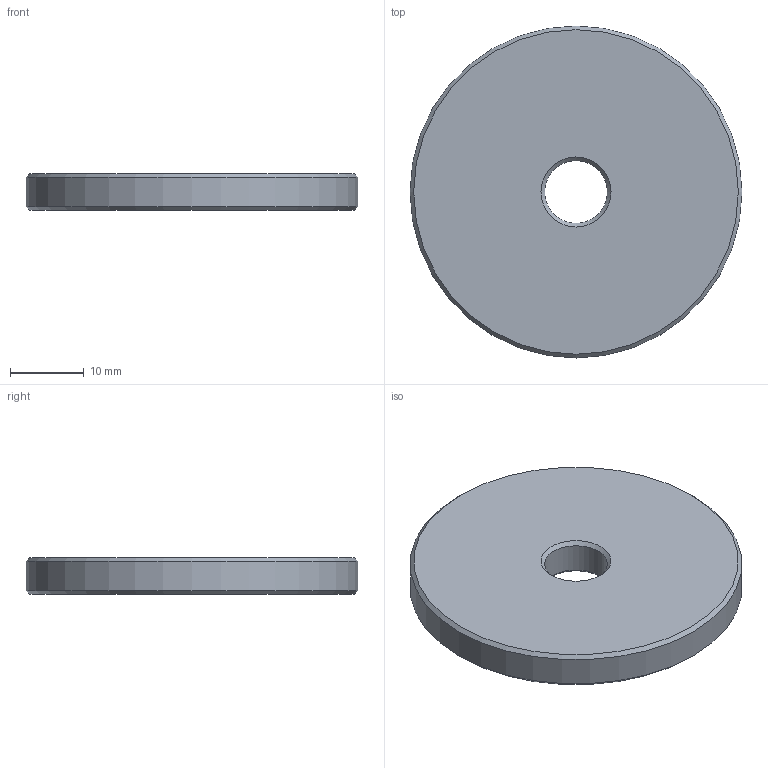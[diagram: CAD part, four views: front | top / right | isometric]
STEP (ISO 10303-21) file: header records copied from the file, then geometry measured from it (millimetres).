
FILE_DESCRIPTION(/* description */ (''),/* implementation_level */ '2;1');
FILE_NAME(/* name */ 'TRAYLOADER.85.stp',/* time_stamp */ '2025-05-12T16:10:42+02:00',/* author */ (''),/* organization */ (''),/* preprocessor_version */ 'ST-DEVELOPER v19.4',/* originating_system */ 'SIEMENS PLM Software NX2306.5001',/* authorisation */ '');
FILE_SCHEMA (('AP203_CONFIGURATION_CONTROLLED_3D_DESIGN_OF_MECHANICAL_PARTS_AND_ASSEMBLIES_MIM_LF { 1 0 10303 403 2 1 2}'));
Length unit declared in the file: millimetre
Products named in the file (1): TRAYLOADER.85_objects
Bounding box: 45 x 45 x 5 mm (x, y, z)
Volume: 7626.4 mm3; surface area: 3809.3 mm2
Topology: 1 solids, 1 shells, 8 faces, 16 edges, 10 vertices
Faces by surface type: cone 4, plane 2, cylinder 2
Full cylindrical faces by diameter (mm): 8.5 x1, 45 x1
Entity records: 254 total; most frequent: DIRECTION 34, CARTESIAN_POINT 25, AXIS2_PLACEMENT_3D 17, FACE_BOUND 16, EDGE_LOOP 16, ORIENTED_EDGE 16, ADVANCED_FACE 8, VERTEX_POINT 8
